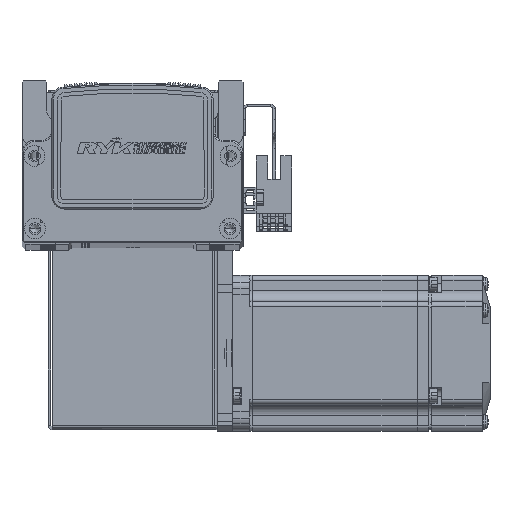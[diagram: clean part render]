
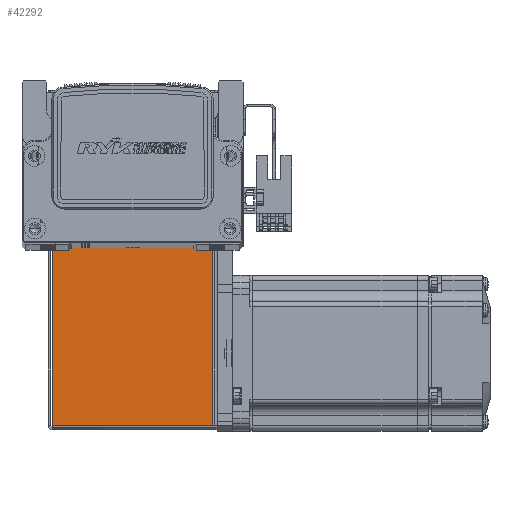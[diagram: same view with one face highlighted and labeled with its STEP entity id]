
A CAD part, top view. The second image highlights one B-rep face of the part: STEP entity #42292.
In plain terms, the highlighted planar face has unit normal (0, 0, 1).
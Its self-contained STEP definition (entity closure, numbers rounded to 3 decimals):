
#782 = CARTESIAN_POINT ( 'NONE',  ( 30.763, 0.737, 35. ) ) ;
#3173 = EDGE_CURVE ( 'NONE', #16416, #16481, #76488, .T. ) ;
#3187 = EDGE_CURVE ( 'NONE', #66245, #16416, #76558, .T. ) ;
#3198 = EDGE_CURVE ( 'NONE', #66245, #16502, #76524, .T. ) ;
#3211 = EDGE_CURVE ( 'NONE', #16502, #16481, #76541, .T. ) ;
#12226 = CARTESIAN_POINT ( 'NONE',  ( 0., 72.5, 35. ) ) ;
#12247 = DIRECTION ( 'NONE',  ( -1., 0., 0. ) ) ;
#12261 = DIRECTION ( 'NONE',  ( 0., 1., 0. ) ) ;
#12289 = CARTESIAN_POINT ( 'NONE',  ( 30.763, 0.737, 35. ) ) ;
#12312 = DIRECTION ( 'NONE',  ( -1., 0., 0. ) ) ;
#12338 = CARTESIAN_POINT ( 'NONE',  ( -32.5, 0.737, 35. ) ) ;
#12370 = DIRECTION ( 'NONE',  ( 0., 1., 0. ) ) ;
#12371 = CARTESIAN_POINT ( 'NONE',  ( -30.793, 0., 35. ) ) ;
#16416 = VERTEX_POINT ( 'NONE', #32158 ) ;
#16481 = VERTEX_POINT ( 'NONE', #32206 ) ;
#16502 = VERTEX_POINT ( 'NONE', #32166 ) ;
#32158 = CARTESIAN_POINT ( 'NONE',  ( 30.763, 72.5, 35. ) ) ;
#32166 = CARTESIAN_POINT ( 'NONE',  ( -30.793, 0.737, 35. ) ) ;
#32206 = CARTESIAN_POINT ( 'NONE',  ( -30.793, 72.5, 35. ) ) ;
#34041 = ORIENTED_EDGE ( 'NONE', *, *, #3187, .T. ) ;
#34050 = ORIENTED_EDGE ( 'NONE', *, *, #3173, .T. ) ;
#34089 = ORIENTED_EDGE ( 'NONE', *, *, #3211, .F. ) ;
#34096 = ORIENTED_EDGE ( 'NONE', *, *, #3198, .F. ) ;
#42292 = ADVANCED_FACE ( 'NONE', ( #70718 ), #66826, .F. ) ;
#66245 = VERTEX_POINT ( 'NONE', #782 ) ;
#66826 = PLANE ( 'NONE',  #70905 ) ;
#66828 = CARTESIAN_POINT ( 'NONE',  ( 0., 0., 35. ) ) ;
#66830 = DIRECTION ( 'NONE',  ( 0., 0., -1. ) ) ;
#66831 = DIRECTION ( 'NONE',  ( -1., 0., 0. ) ) ;
#70718 = FACE_OUTER_BOUND ( 'NONE', #75503, .T. ) ;
#70905 = AXIS2_PLACEMENT_3D ( 'NONE', #66828, #66830, #66831 ) ;
#75503 = EDGE_LOOP ( 'NONE', ( #34041, #34050, #34089, #34096 ) ) ;
#76458 = VECTOR ( 'NONE', #12247, 1000. ) ;
#76488 = LINE ( 'NONE', #12226, #76458 ) ;
#76502 = VECTOR ( 'NONE', #12312, 1000. ) ;
#76524 = LINE ( 'NONE', #12338, #76502 ) ;
#76531 = VECTOR ( 'NONE', #12261, 1000. ) ;
#76541 = LINE ( 'NONE', #12371, #76547 ) ;
#76547 = VECTOR ( 'NONE', #12370, 1000. ) ;
#76558 = LINE ( 'NONE', #12289, #76531 ) ;
